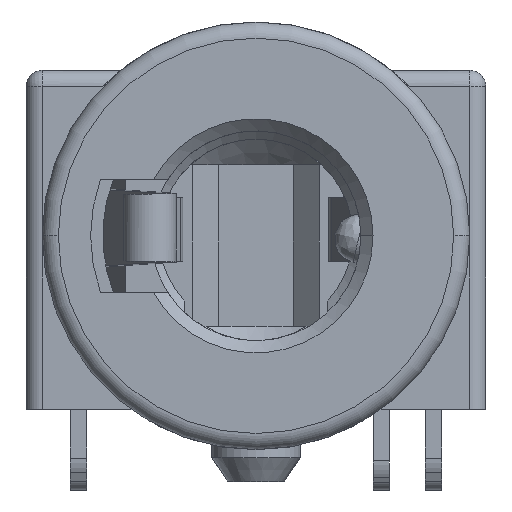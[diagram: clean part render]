
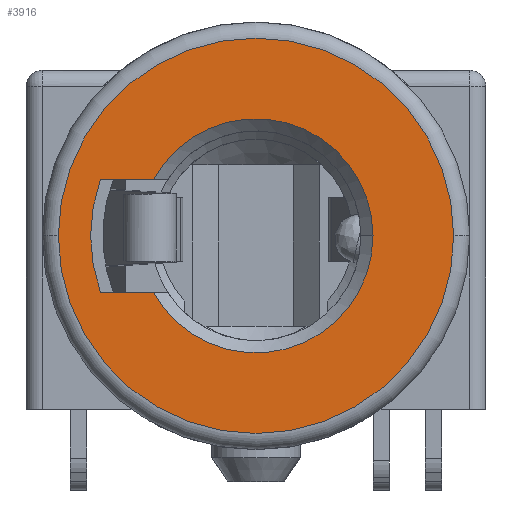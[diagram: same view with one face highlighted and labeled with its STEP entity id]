
A CAD part, front view. The second image highlights one B-rep face of the part: STEP entity #3916.
In plain terms, the highlighted planar face has unit normal (0, -1, 0).
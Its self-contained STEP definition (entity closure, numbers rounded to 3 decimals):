
#83 = CARTESIAN_POINT ( 'NONE',  ( 0., 0., 0. ) ) ;
#1430 = DIRECTION ( 'NONE',  ( 1., 0., 0. ) ) ;
#1826 = DIRECTION ( 'NONE',  ( 0., 1., 0. ) ) ;
#2005 = CARTESIAN_POINT ( 'NONE',  ( 2.45, 0., 0. ) ) ;
#2022 = AXIS2_PLACEMENT_3D ( 'NONE', #30739, #7347, #12646 ) ;
#2085 = FACE_BOUND ( 'NONE', #9364, .T. ) ;
#2162 = CARTESIAN_POINT ( 'NONE',  ( 0., 0., 0. ) ) ;
#2304 = DIRECTION ( 'NONE',  ( 0., 1., 0. ) ) ;
#3500 = AXIS2_PLACEMENT_3D ( 'NONE', #19997, #5873, #18853 ) ;
#3916 = ADVANCED_FACE ( 'NONE', ( #2085, #9924 ), #20341, .T. ) ;
#5118 = AXIS2_PLACEMENT_3D ( 'NONE', #83, #2304, #30795 ) ;
#5579 = CARTESIAN_POINT ( 'NONE',  ( 1.45, 0., 0. ) ) ;
#5873 = DIRECTION ( 'NONE',  ( 0., 1., 0. ) ) ;
#5937 = ORIENTED_EDGE ( 'NONE', *, *, #25407, .T. ) ;
#6537 = LINE ( 'NONE', #9901, #28583 ) ;
#7296 = ORIENTED_EDGE ( 'NONE', *, *, #23880, .F. ) ;
#7347 = DIRECTION ( 'NONE',  ( 0., -1., 0. ) ) ;
#7607 = CARTESIAN_POINT ( 'NONE',  ( -1.927, 0., 0.7 ) ) ;
#8394 = CIRCLE ( 'NONE', #5118, 2.45 ) ;
#8561 = CARTESIAN_POINT ( 'NONE',  ( -1.27, 0., -0.7 ) ) ;
#9364 = EDGE_LOOP ( 'NONE', ( #13082, #5937, #26120, #20788, #25554 ) ) ;
#9901 = CARTESIAN_POINT ( 'NONE',  ( 1.3, 0., 0.7 ) ) ;
#9924 = FACE_OUTER_BOUND ( 'NONE', #22251, .T. ) ;
#10547 = CIRCLE ( 'NONE', #3500, 1.45 ) ;
#10677 = VERTEX_POINT ( 'NONE', #5579 ) ;
#11189 = EDGE_CURVE ( 'NONE', #14789, #24064, #14534, .T. ) ;
#12113 = CARTESIAN_POINT ( 'NONE',  ( -2.45, 0., 0. ) ) ;
#12147 = AXIS2_PLACEMENT_3D ( 'NONE', #18771, #29178, #21342 ) ;
#12646 = DIRECTION ( 'NONE',  ( 0., 0., -1. ) ) ;
#12740 = CARTESIAN_POINT ( 'NONE',  ( 0., 0., 0. ) ) ;
#13082 = ORIENTED_EDGE ( 'NONE', *, *, #15234, .T. ) ;
#13088 = CIRCLE ( 'NONE', #16706, 2.45 ) ;
#14214 = CARTESIAN_POINT ( 'NONE',  ( -1.927, 0., -0.7 ) ) ;
#14534 = LINE ( 'NONE', #22396, #30581 ) ;
#14789 = VERTEX_POINT ( 'NONE', #8561 ) ;
#15234 = EDGE_CURVE ( 'NONE', #17408, #10677, #32317, .T. ) ;
#16706 = AXIS2_PLACEMENT_3D ( 'NONE', #12740, #31003, #19933 ) ;
#17408 = VERTEX_POINT ( 'NONE', #26519 ) ;
#18771 = CARTESIAN_POINT ( 'NONE',  ( 0., 0., 0. ) ) ;
#18853 = DIRECTION ( 'NONE',  ( 1., 0., 0. ) ) ;
#19933 = DIRECTION ( 'NONE',  ( 1., 0., 0. ) ) ;
#19997 = CARTESIAN_POINT ( 'NONE',  ( 0., 0., 0. ) ) ;
#20341 = PLANE ( 'NONE',  #2022 ) ;
#20596 = DIRECTION ( 'NONE',  ( 1., 0., 0. ) ) ;
#20788 = ORIENTED_EDGE ( 'NONE', *, *, #27183, .T. ) ;
#21002 = VERTEX_POINT ( 'NONE', #7607 ) ;
#21342 = DIRECTION ( 'NONE',  ( 1., 0., 0. ) ) ;
#22235 = DIRECTION ( 'NONE',  ( -1., 0., 0. ) ) ;
#22251 = EDGE_LOOP ( 'NONE', ( #22935, #7296 ) ) ;
#22396 = CARTESIAN_POINT ( 'NONE',  ( -1.095, 0., -0.7 ) ) ;
#22935 = ORIENTED_EDGE ( 'NONE', *, *, #32497, .F. ) ;
#23880 = EDGE_CURVE ( 'NONE', #30414, #30819, #8394, .T. ) ;
#24035 = EDGE_CURVE ( 'NONE', #21002, #17408, #6537, .T. ) ;
#24064 = VERTEX_POINT ( 'NONE', #14214 ) ;
#24285 = AXIS2_PLACEMENT_3D ( 'NONE', #2162, #1826, #20596 ) ;
#25407 = EDGE_CURVE ( 'NONE', #10677, #14789, #10547, .T. ) ;
#25554 = ORIENTED_EDGE ( 'NONE', *, *, #24035, .T. ) ;
#26120 = ORIENTED_EDGE ( 'NONE', *, *, #11189, .T. ) ;
#26519 = CARTESIAN_POINT ( 'NONE',  ( -1.27, 0., 0.7 ) ) ;
#27007 = CIRCLE ( 'NONE', #24285, 2.05 ) ;
#27183 = EDGE_CURVE ( 'NONE', #24064, #21002, #27007, .T. ) ;
#28583 = VECTOR ( 'NONE', #1430, 1000. ) ;
#29178 = DIRECTION ( 'NONE',  ( 0., 1., 0. ) ) ;
#30414 = VERTEX_POINT ( 'NONE', #12113 ) ;
#30581 = VECTOR ( 'NONE', #22235, 1000. ) ;
#30739 = CARTESIAN_POINT ( 'NONE',  ( 1.3, 0., 0. ) ) ;
#30795 = DIRECTION ( 'NONE',  ( 1., 0., 0. ) ) ;
#30819 = VERTEX_POINT ( 'NONE', #2005 ) ;
#31003 = DIRECTION ( 'NONE',  ( 0., 1., 0. ) ) ;
#32317 = CIRCLE ( 'NONE', #12147, 1.45 ) ;
#32497 = EDGE_CURVE ( 'NONE', #30819, #30414, #13088, .T. ) ;
